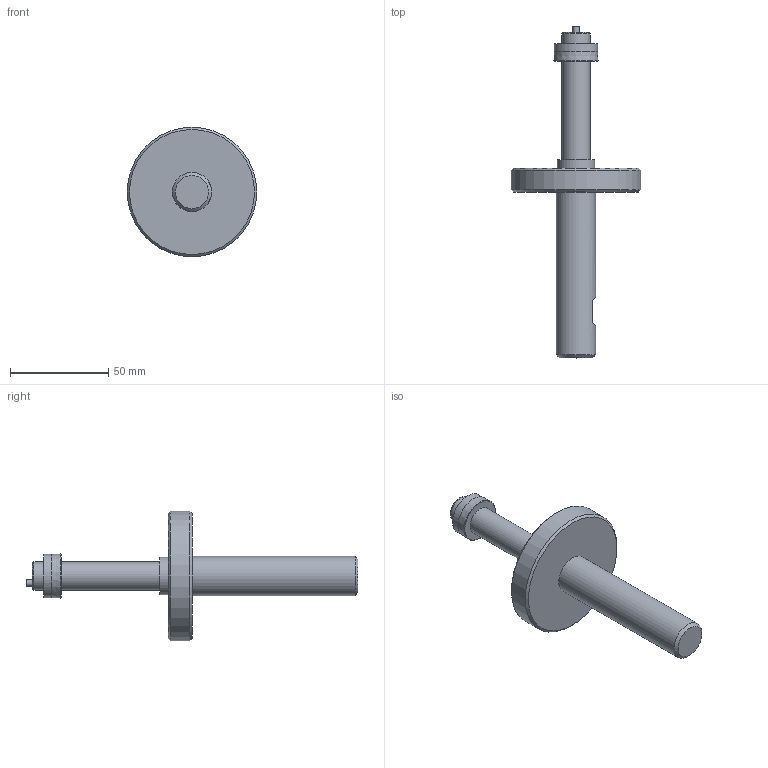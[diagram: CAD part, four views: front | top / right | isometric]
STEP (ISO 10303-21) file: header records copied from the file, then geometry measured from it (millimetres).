
FILE_DESCRIPTION (( 'STEP AP203' ), '1' );
FILE_NAME ('AF56-SIMPLE - AF56-14.50M-22.50M.step', '2025-01-22T13:31:54', ( '' ), ( '' ), 'SwSTEP 2.0', 'SolidWorks 2024', '' );
FILE_SCHEMA (( 'CONFIG_CONTROL_DESIGN' ));
Length unit declared in the file: inch
Products named in the file (1): AF56-SIMPLE - AF56-14.50M-22.50M
Bounding box: 66.04 x 169.29 x 66.04 mm (x, y, z)
Volume: 81603.7 mm3; surface area: 18227 mm2
Topology: 1 solids, 1 shells, 24 faces, 40 edges, 25 vertices
Faces by surface type: plane 11, cylinder 7, cone 5, torus 1
Full cylindrical faces by diameter (mm): 3.175 x1, 14.376 x2, 19.05 x1, 20 x1, 21.994 x1, 66.04 x1
Entity records: 569 total; most frequent: DIRECTION 94, CARTESIAN_POINT 81, ORIENTED_EDGE 52, AXIS2_PLACEMENT_3D 45, EDGE_LOOP 44, FACE_OUTER_BOUND 32, EDGE_CURVE 26, VERTEX_POINT 24
